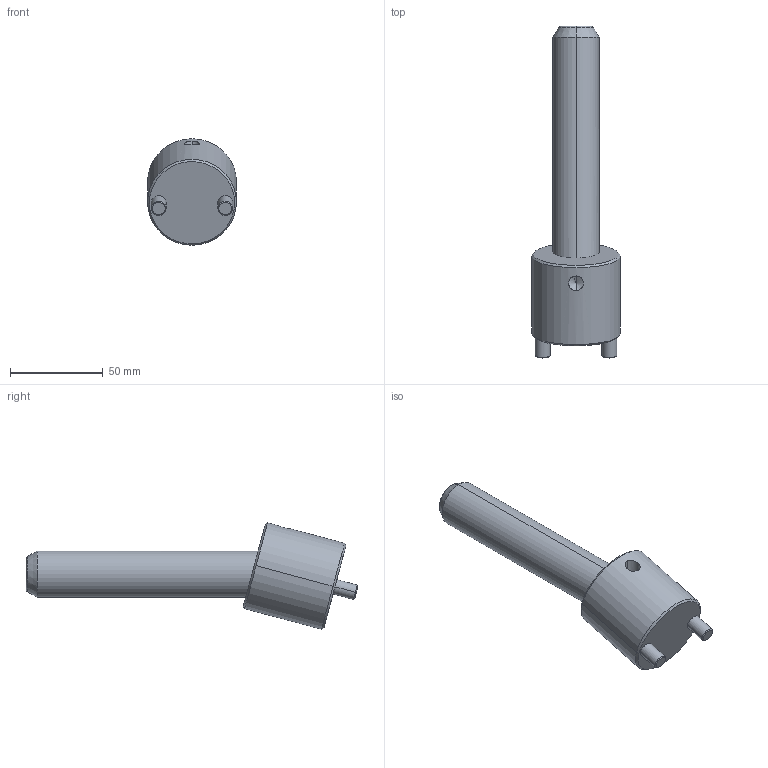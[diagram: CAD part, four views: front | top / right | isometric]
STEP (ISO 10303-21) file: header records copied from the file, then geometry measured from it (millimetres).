
FILE_DESCRIPTION(('CATIA V5 STEP Exchange'),'2;1');
FILE_NAME('C:\Users\Raffaele\Desktop\3D BOLEX\3D FILES CF BOLEX\19-INCLINED ASSEMBLY REF_CI\CI1525125.stp','2019-06-21T14:17:49+00:00',('none'),('none'),'CATIA Version 5 Release 20 GA (IN-10)','CATIA V5 STEP AP203','none');
FILE_SCHEMA(('CONFIG_CONTROL_DESIGN'));
Length unit declared in the file: millimetre
Products named in the file (1): CI1525125
Assembly tree (2 placements, depth 2):
  CI1525125
    #58
    #602
Bounding box: 48 x 179.26 x 57.49 mm (x, y, z)
Volume: 140479.5 mm3; surface area: 27384.7 mm2
Topology: 2 solids, 2 shells, 39 faces, 82 edges, 47 vertices
Faces by surface type: cone 14, cylinder 14, plane 7, torus 4
Entity records: 1524 total; most frequent: CARTESIAN_POINT 663, ORIENTED_EDGE 160, DIRECTION 146, EDGE_CURVE 80, AXIS2_PLACEMENT_3D 73, VERTEX_POINT 47, EDGE_LOOP 43, ADVANCED_FACE 39
